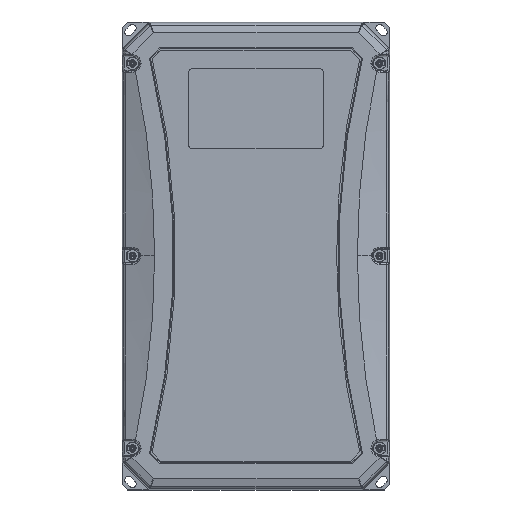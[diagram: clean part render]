
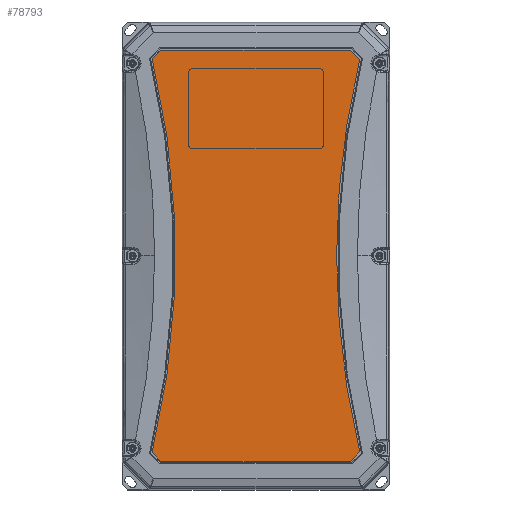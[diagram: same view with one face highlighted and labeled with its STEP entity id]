
A CAD part, top view. The second image highlights one B-rep face of the part: STEP entity #78793.
In plain terms, the highlighted planar face has unit normal (0, 0, 1).
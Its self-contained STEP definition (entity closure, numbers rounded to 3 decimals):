
#76 = DIRECTION ( 'NONE',  ( 1., 0., 0. ) ) ;
#424 = DIRECTION ( 'NONE',  ( 0., 0., -1. ) ) ;
#2024 = DIRECTION ( 'NONE',  ( -0.707, -0.707, 0. ) ) ;
#2743 = CARTESIAN_POINT ( 'NONE',  ( -71.219, -153.8, 119.7 ) ) ;
#3069 = LINE ( 'NONE', #127723, #88781 ) ;
#4094 = ORIENTED_EDGE ( 'NONE', *, *, #97764, .T. ) ;
#5807 = DIRECTION ( 'NONE',  ( -1., 0., 0. ) ) ;
#7125 = DIRECTION ( 'NONE',  ( 0., 0., -1. ) ) ;
#8332 = CARTESIAN_POINT ( 'NONE',  ( 70.512, 153.8, 119.7 ) ) ;
#9699 = DIRECTION ( 'NONE',  ( 0.707, -0.707, 0. ) ) ;
#11209 = DIRECTION ( 'NONE',  ( 0., 0., -1. ) ) ;
#12376 = CARTESIAN_POINT ( 'NONE',  ( 690., 0., 119.7 ) ) ;
#16782 = VECTOR ( 'NONE', #9699, 1000. ) ;
#17804 = LINE ( 'NONE', #106037, #138188 ) ;
#18557 = EDGE_CURVE ( 'NONE', #44673, #41122, #120778, .T. ) ;
#24117 = DIRECTION ( 'NONE',  ( 1., 0., 0. ) ) ;
#24813 = EDGE_CURVE ( 'NONE', #97880, #69526, #100700, .T. ) ;
#27742 = VECTOR ( 'NONE', #5807, 1000. ) ;
#34812 = PLANE ( 'NONE',  #118205 ) ;
#41122 = VERTEX_POINT ( 'NONE', #62393 ) ;
#44112 = LINE ( 'NONE', #137200, #16782 ) ;
#44673 = VERTEX_POINT ( 'NONE', #50555 ) ;
#47470 = EDGE_CURVE ( 'NONE', #122654, #75776, #143784, .T. ) ;
#48919 = ORIENTED_EDGE ( 'NONE', *, *, #122444, .T. ) ;
#50555 = CARTESIAN_POINT ( 'NONE',  ( -77.761, 147.258, 119.7 ) ) ;
#52291 = CARTESIAN_POINT ( 'NONE',  ( 60.3, 0., 119.7 ) ) ;
#52344 = EDGE_CURVE ( 'NONE', #73220, #75760, #119647, .T. ) ;
#53482 = ORIENTED_EDGE ( 'NONE', *, *, #98475, .T. ) ;
#56978 = EDGE_CURVE ( 'NONE', #69526, #44673, #17804, .T. ) ;
#58737 = ORIENTED_EDGE ( 'NONE', *, *, #47470, .T. ) ;
#61455 = CARTESIAN_POINT ( 'NONE',  ( 70.512, -153.8, 119.7 ) ) ;
#61463 = LINE ( 'NONE', #61455, #147139 ) ;
#62393 = CARTESIAN_POINT ( 'NONE',  ( -77.761, -147.258, 119.7 ) ) ;
#69526 = VERTEX_POINT ( 'NONE', #130234 ) ;
#69814 = EDGE_LOOP ( 'NONE', ( #48919, #123235, #133733, #140036, #134022, #58737, #4094, #53482, #143089 ) ) ;
#70276 = CARTESIAN_POINT ( 'NONE',  ( -690., 0., 119.7 ) ) ;
#73163 = DIRECTION ( 'NONE',  ( 0.707, 0.707, 0. ) ) ;
#73220 = VERTEX_POINT ( 'NONE', #52291 ) ;
#75760 = VERTEX_POINT ( 'NONE', #132926 ) ;
#75776 = VERTEX_POINT ( 'NONE', #86477 ) ;
#76980 = CARTESIAN_POINT ( 'NONE',  ( 690., 0., 119.7 ) ) ;
#78793 = ADVANCED_FACE ( 'NONE', ( #134563 ), #34812, .T. ) ;
#81012 = CARTESIAN_POINT ( 'NONE',  ( 690., 0., 119.7 ) ) ;
#81995 = DIRECTION ( 'NONE',  ( 1., 0., 0. ) ) ;
#86477 = CARTESIAN_POINT ( 'NONE',  ( 70.512, -153.8, 119.7 ) ) ;
#86609 = CIRCLE ( 'NONE', #133128, 629.7 ) ;
#88709 = DIRECTION ( 'NONE',  ( 1., 0., 0. ) ) ;
#88781 = VECTOR ( 'NONE', #139427, 1000. ) ;
#89250 = AXIS2_PLACEMENT_3D ( 'NONE', #76980, #7125, #88709 ) ;
#92768 = DIRECTION ( 'NONE',  ( 1., 0., 0. ) ) ;
#93382 = CARTESIAN_POINT ( 'NONE',  ( -71.219, -153.8, 119.7 ) ) ;
#93911 = DIRECTION ( 'NONE',  ( 0., 0., 1. ) ) ;
#96760 = VERTEX_POINT ( 'NONE', #119285 ) ;
#96776 = AXIS2_PLACEMENT_3D ( 'NONE', #70276, #424, #81995 ) ;
#97764 = EDGE_CURVE ( 'NONE', #75776, #96760, #61463, .T. ) ;
#97880 = VERTEX_POINT ( 'NONE', #8332 ) ;
#98475 = EDGE_CURVE ( 'NONE', #96760, #73220, #86609, .T. ) ;
#100700 = LINE ( 'NONE', #110374, #27742 ) ;
#106037 = CARTESIAN_POINT ( 'NONE',  ( -71.219, 153.8, 119.7 ) ) ;
#110374 = CARTESIAN_POINT ( 'NONE',  ( -71.219, 153.8, 119.7 ) ) ;
#118205 = AXIS2_PLACEMENT_3D ( 'NONE', #12376, #93911, #24117 ) ;
#119285 = CARTESIAN_POINT ( 'NONE',  ( 77.624, -146.688, 119.7 ) ) ;
#119647 = CIRCLE ( 'NONE', #89250, 629.7 ) ;
#120778 = CIRCLE ( 'NONE', #96776, 629.7 ) ;
#122444 = EDGE_CURVE ( 'NONE', #75760, #97880, #3069, .T. ) ;
#122654 = VERTEX_POINT ( 'NONE', #2743 ) ;
#123235 = ORIENTED_EDGE ( 'NONE', *, *, #24813, .T. ) ;
#127723 = CARTESIAN_POINT ( 'NONE',  ( 70.512, 153.8, 119.7 ) ) ;
#130234 = CARTESIAN_POINT ( 'NONE',  ( -71.219, 153.8, 119.7 ) ) ;
#132926 = CARTESIAN_POINT ( 'NONE',  ( 77.624, 146.688, 119.7 ) ) ;
#133128 = AXIS2_PLACEMENT_3D ( 'NONE', #81012, #11209, #92768 ) ;
#133733 = ORIENTED_EDGE ( 'NONE', *, *, #56978, .T. ) ;
#134022 = ORIENTED_EDGE ( 'NONE', *, *, #146297, .T. ) ;
#134563 = FACE_OUTER_BOUND ( 'NONE', #69814, .T. ) ;
#137200 = CARTESIAN_POINT ( 'NONE',  ( -71.219, -153.8, 119.7 ) ) ;
#138188 = VECTOR ( 'NONE', #2024, 1000. ) ;
#139427 = DIRECTION ( 'NONE',  ( -0.707, 0.707, 0. ) ) ;
#140036 = ORIENTED_EDGE ( 'NONE', *, *, #18557, .T. ) ;
#143089 = ORIENTED_EDGE ( 'NONE', *, *, #52344, .T. ) ;
#143784 = LINE ( 'NONE', #93382, #147392 ) ;
#146297 = EDGE_CURVE ( 'NONE', #41122, #122654, #44112, .T. ) ;
#147139 = VECTOR ( 'NONE', #73163, 1000. ) ;
#147392 = VECTOR ( 'NONE', #76, 1000. ) ;
